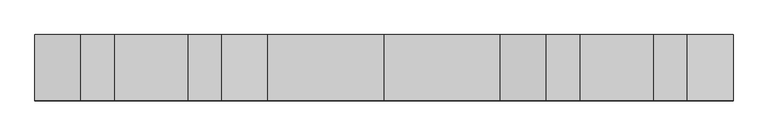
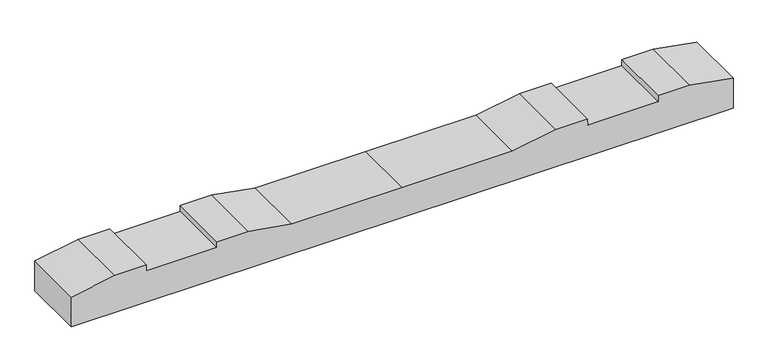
"""IFC4 building model written with IfcOpenShell, lengths in millimetres: proxy geometry, 轨枕-立面角度 : 轨枕-立面角度."""

from ifc_helpers import new_model, si_unit, frame, origin, place, context, project, spatial, polyline, outline, extrude, source, transform, mapped, element, save


def generic_models_2c5e1e1f(model_context):
    return source(origin(), model_context, "Body", "SweptSolid", [
        extrude(outline(polyline([(0.0, 0.0), (0.0, -100.0206889), (-137.8834664, -124.4999999), (-237.8834664, -124.4999999), (-237.8834664, -104.5), (-461.8834664, -104.5), (-461.8834664, -124.4999999), (-561.8834664, -124.4999999), (-699.8834664, -100.0), (-1049.8834664, -100.0), (-1399.8834664, -100.0), (-1537.8834664, -124.4999999), (-1637.8834664, -124.4999999), (-1637.8834664, -104.5), (-1861.8834664, -104.5), (-1861.8834664, -124.4999999), (-1961.8834664, -124.4999999), (-2099.7669328, -100.0206889), (-2099.7669328, 0.0), (0.0, 0.0)])), frame((-1049.8834664, 99.8829342, -104.6118992), z_axis=(0.0, -0.9999993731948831, 0.0011196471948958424), x_axis=(-1.0, 0.0, 0.0)), (0.0, 0.0, 1.0), 200.0),
    ])


if __name__ == "__main__":
    model = new_model("IFC4")
    model_context = context("Model", 3, world=origin())
    ifc_project = project(units=[si_unit("LENGTHUNIT", "METRE", prefix="MILLI")], contexts=[model_context])
    site = spatial("IfcSite", under=ifc_project)
    building = spatial("IfcBuilding", under=site)
    placement = place(None, origin())
    generic_models_shape = generic_models_2c5e1e1f(model_context)
    element("IfcBuildingElementProxy", 1, Name="轨枕-立面角度 : 轨枕-立面角度", ObjectType="轨枕-立面角度 : 轨枕-立面角度", at=placement, inside=building, context=model_context, shape_type="MappedRepresentation", body=[
        mapped(generic_models_shape, transform((0.0, 0.0, 0.0), x_axis=(1.0, 0.0, 0.0), y_axis=(0.0, 1.0, 0.0), z_axis=(0.0, 0.0, 1.0))),
    ])
    save(model, "model.ifc")
